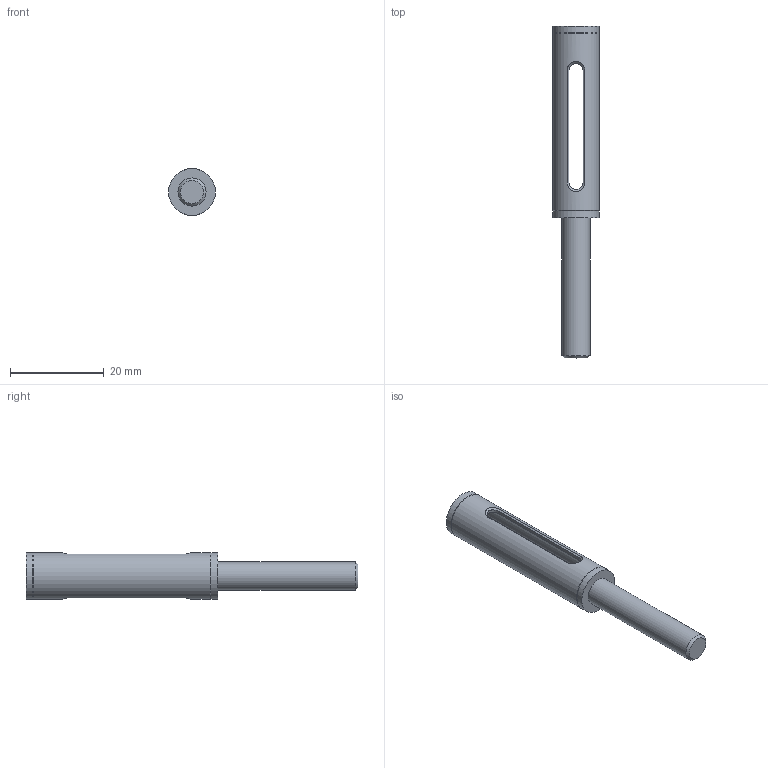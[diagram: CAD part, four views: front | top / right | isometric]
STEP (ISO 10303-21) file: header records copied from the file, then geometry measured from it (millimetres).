
FILE_DESCRIPTION(/* description */ (''),/* implementation_level */ '2;1');
FILE_NAME(/* name */ 'C:\Evgeny\Noga Works\_Noga MT Brush\solidcam\Sleeves for Face Brush D6 UF5506.stp',/* time_stamp */ '2025-03-23T09:03:54+02:00',/* author */ ('evgeny'),/* organization */ (''),/* preprocessor_version */ 'ST-DEVELOPER v20',/* originating_system */ 'Autodesk Inventor 2022',/* authorisation */ '');
FILE_SCHEMA (('AUTOMOTIVE_DESIGN { 1 0 10303 214 3 1 1 }'));
Length unit declared in the file: millimetre
Products named in the file (1): Sleeves for Face Brush D6 UF5506
Bounding box: 10 x 71 x 10 mm (x, y, z)
Volume: 2086.2 mm3; surface area: 2674.1 mm2
Topology: 1 solids, 1 shells, 28 faces, 64 edges, 40 vertices
Faces by surface type: plane 12, cylinder 9, bspline 4, torus 2, cone 1
Full cylindrical faces by diameter (mm): 6 x1, 8 x1, 10 x3
Entity records: 1177 total; most frequent: CARTESIAN_POINT 513, ORIENTED_EDGE 128, DIRECTION 120, EDGE_CURVE 64, AXIS2_PLACEMENT_3D 43, VERTEX_POINT 40, LINE 34, VECTOR 34
